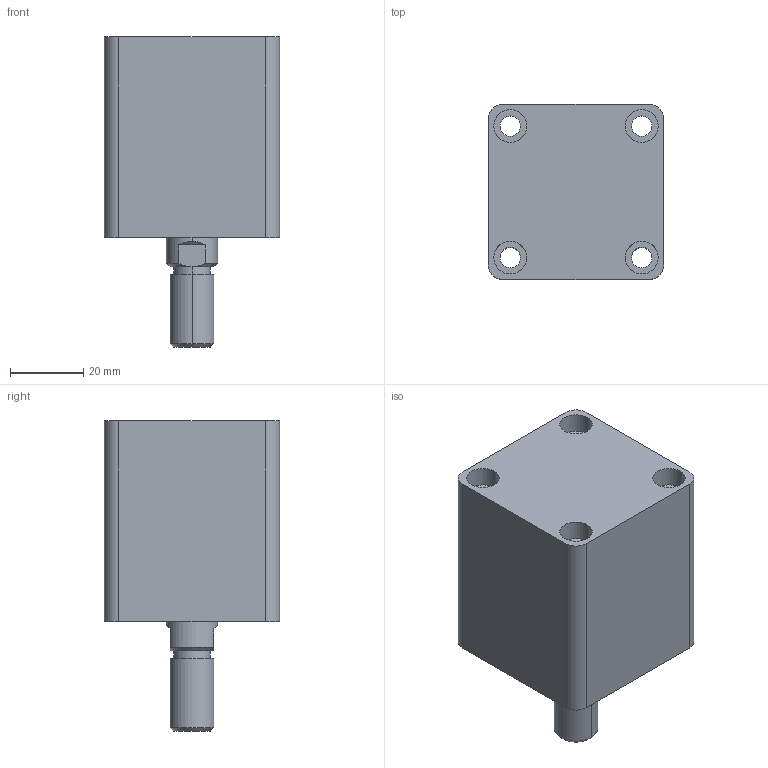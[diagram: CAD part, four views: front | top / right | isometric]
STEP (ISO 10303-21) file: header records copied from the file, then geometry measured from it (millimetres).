
FILE_DESCRIPTION (( 'STEP AP203' ), '1' );
FILE_NAME ('HTB-SD25-10W.STEP', '2019-10-07T05:57:16', ( '微软用户' ), ( '微软中国' ), 'SwSTEP 2.0', 'SolidWorks 2012', '' );
FILE_SCHEMA (( 'CONFIG_CONTROL_DESIGN' ));
Length unit declared in the file: millimetre
Products named in the file (3): HTB-SD25-10掛极; HTB-SD25-10W活塞杆; HTB-SD25-10W
Assembly tree (2 placements, depth 2):
  HTB-SD25-10W
    HTB-SD25-10掛极
    HTB-SD25-10W活塞杆
Bounding box: 48 x 48 x 85 mm (x, y, z)
Volume: 118011 mm3; surface area: 27682.3 mm2
Topology: 2 solids, 2 shells, 87 faces, 188 edges, 122 vertices
Faces by surface type: cylinder 44, plane 29, cone 8, torus 6
Entity records: 2759 total; most frequent: DIRECTION 476, CARTESIAN_POINT 446, ORIENTED_EDGE 376, AXIS2_PLACEMENT_3D 204, EDGE_CURVE 188, VERTEX_POINT 122, CIRCLE 112, EDGE_LOOP 112
